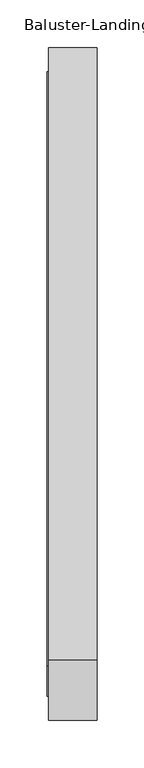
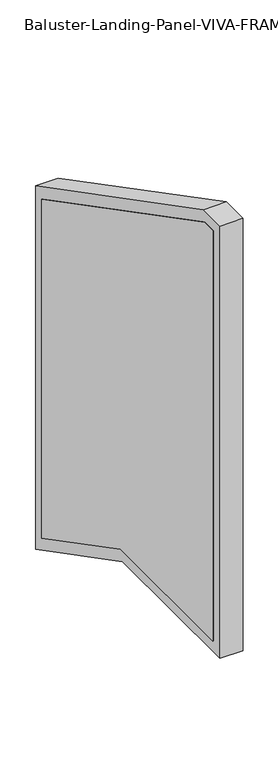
"""IFC4 building model written with IfcOpenShell, lengths in millimetres: railing geometry, Baluster-Landing-Panel-VIVA-FRAME-Lower : Standard_PP01."""

from ifc_helpers import new_model, si_unit, frame, origin, place, context, project, spatial, polyline, outline, extrude, faceted_brep, source, transform, mapped, element, save


def baluster_landing_panel_viva_frame_lower_standard_pp01_77fad078(model_context):
    return source(origin(), model_context, "Body", "SolidModel", [
        extrude(outline(polyline([(-328.8734259, -55.8472434), (-683.6110088, -55.8472434), (-683.6110088, 906.145), (-651.5475888, 906.145), (-25.4, 580.1931965), (-25.4, -213.8255096), (-328.8734259, -55.8472434)])), frame((14.2584857, 0.0, 0.0), z_axis=(1.0, 0.0, 0.0), x_axis=(0.0, 1.0, 0.0)), (0.0, 0.0, 1.0), 2.9972),
        faceted_brep([(35.6827057, -5.9329371, -245.9062365), (66.4929057, -5.9329371, -245.9062365), (66.4929057, -5.9329371, 592.0061003), (35.6827057, -5.9329371, 592.0061003), (15.6929057, -50.7385371, -172.0688929), (35.6827057, -50.7385371, -172.0688929), (35.6827057, -50.7385371, 564.8173947), (15.6929057, -50.7385371, 564.8173947), (66.4929057, 0.0614629, -255.784702), (15.6929057, 0.0614629, -255.784702), (15.6929057, 0.0614629, 595.6435915), (66.4929057, 0.0614629, 595.6435915), (66.4929057, -646.7840288, 925.6120629), (35.6827057, -646.7840288, 925.6120629), (35.6827057, -657.7478894, 880.8064629), (15.6929057, -657.7478894, 880.8064629), (15.6929057, -645.3172085, 931.6064629), (66.4929057, -645.3172085, 931.6064629), (66.4929057, -703.0780717, 925.6120629), (35.6827057, -703.0780717, 925.6120629), (35.6827057, -658.2724717, 880.8064629), (15.6929057, -658.2724717, 880.8064629), (15.6929057, -709.0724717, 931.6064629), (66.4929057, -709.0724717, 931.6064629), (66.4929057, -703.0780717, -75.3143063), (35.6827057, -703.0780717, -75.3143063), (35.6827057, -658.2724717, -30.5087063), (15.6929057, -658.2724717, -30.5087063), (15.6929057, -709.0724717, -81.3087063), (66.4929057, -709.0724717, -81.3087063), (66.4929057, -333.6369859, -75.3143063), (35.6827057, -333.6369859, -75.3143063), (35.6827057, -322.6731254, -30.5087063), (15.6929057, -322.6731254, -30.5087063), (15.6929057, -335.1038063, -81.3087063), (66.4929057, -335.1038063, -81.3087063)], [[[0, 1, 2, 3]], [[4, 5, 6, 7]], [[8, 9, 10, 11]], [[3, 2, 12, 13]], [[7, 6, 14, 15]], [[11, 10, 16, 17]], [[13, 12, 18, 19]], [[15, 14, 20, 21]], [[17, 16, 22, 23]], [[19, 18, 24, 25]], [[21, 20, 26, 27]], [[23, 22, 28, 29]], [[25, 24, 30, 31]], [[27, 26, 32, 33]], [[29, 28, 34, 35]], [[23, 29, 35, 8, 11, 17], [1, 30, 24, 18, 12, 2]], [[31, 30, 1, 0]], [[19, 25, 31, 0, 3, 13], [5, 32, 26, 20, 14, 6]], [[33, 32, 5, 4]], [[9, 34, 28, 22, 16, 10], [21, 27, 33, 4, 7, 15]], [[35, 34, 9, 8]]]),
    ])


if __name__ == "__main__":
    model = new_model("IFC4")
    model_context = context("Model", 3, world=origin())
    ifc_project = project(units=[si_unit("LENGTHUNIT", "METRE", prefix="MILLI")], contexts=[model_context])
    site = spatial("IfcSite", under=ifc_project)
    building = spatial("IfcBuilding", under=site)
    placement = place(None, origin())
    baluster_landing_panel_viva_frame_lower_standard_pp01_shape = baluster_landing_panel_viva_frame_lower_standard_pp01_77fad078(model_context)
    element("IfcRailing", 1, ObjectType="Baluster-Landing-Panel-VIVA-FRAME-Lower : Standard_PP01", at=placement, inside=building, context=model_context, shape_type="MappedRepresentation", body=[
        mapped(baluster_landing_panel_viva_frame_lower_standard_pp01_shape, transform((0.0, 0.0, 0.0), x_axis=(1.0, 0.0, 0.0), y_axis=(0.0, 1.0, 0.0), z_axis=(0.0, 0.0, 1.0))),
    ])
    save(model, "model.ifc")
